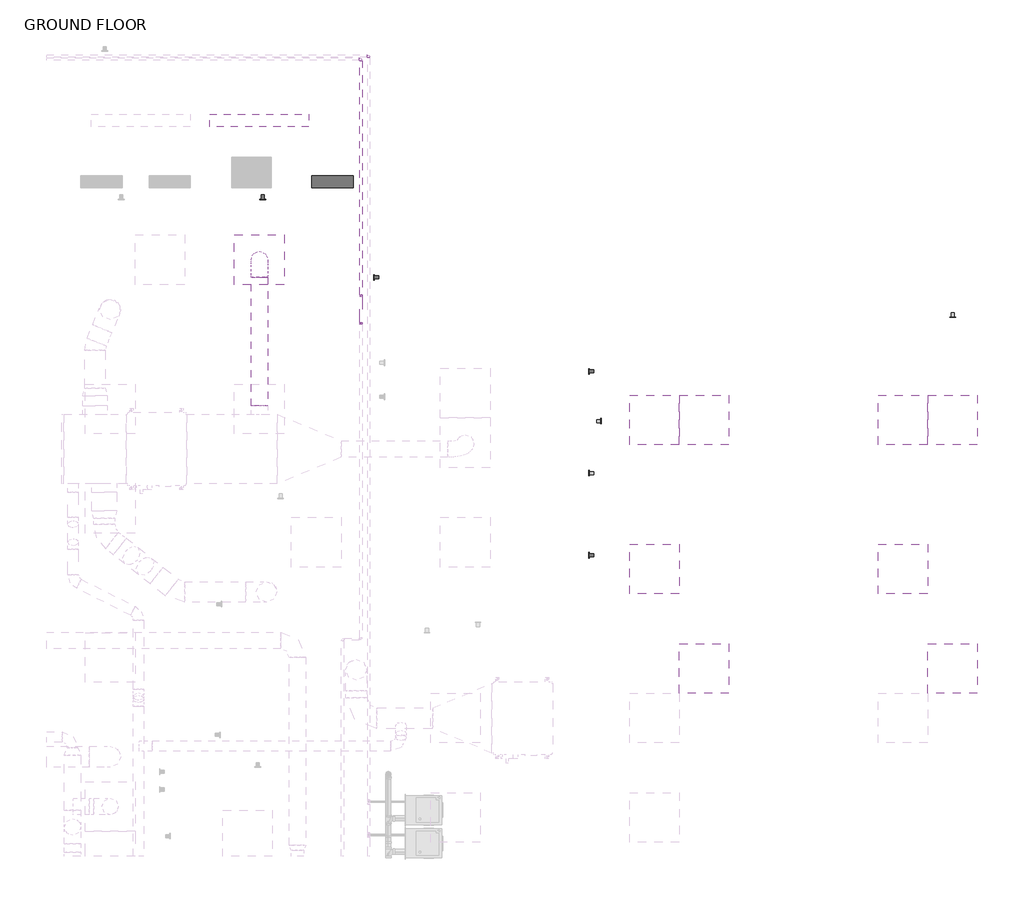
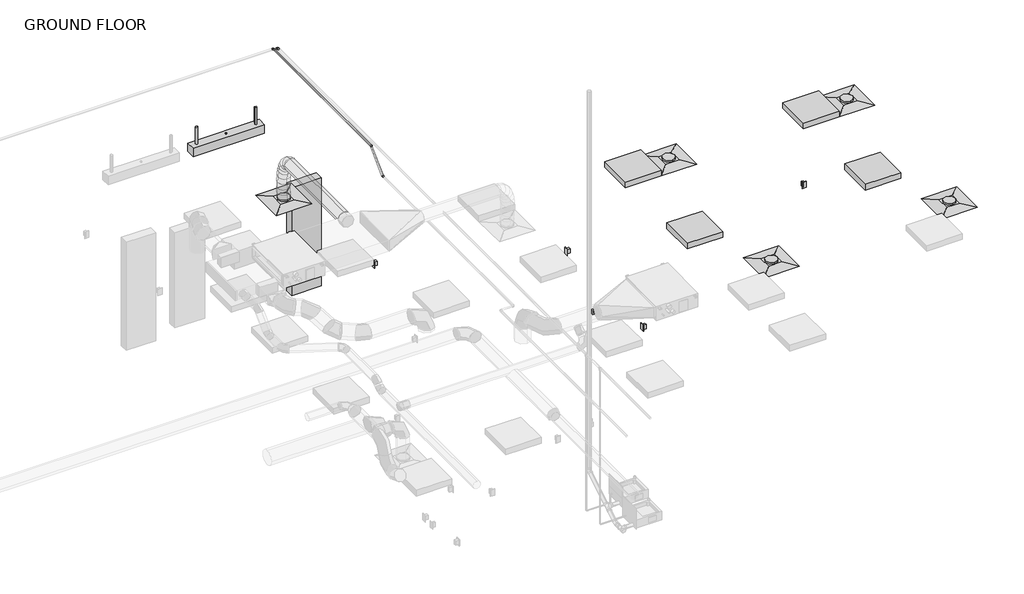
# One storey, part 20 of 20: 8 proxies, 5 air terminals, 5 light fixtures, 4 pipe fittings, 2 duct segments, 2 pipe segments.
"""IFC4 building model written with IfcOpenShell, lengths in millimetres."""

from ifc_helpers import new_model, si_unit, point, frame, frame_2d, origin, place, context, project, spatial, circle_curve, ellipse_curve, trimmed, segment, composite_curve, outline, extrude, transform, mapped, element, save
from ifc_brep_helpers import plane_surface, cylinder_surface, advanced_brep
from components import air_terminal_e9020785, duplex_receptacle_countertop_10251bba, lighting_and_appliance_panelboard_208v_mcb_surface_400_a_1492eeec, suspended_fluorescent_strip_non_hosted_strip_light_1x4_120v_4ea4ccb3, troffer_corner_insert_2x2_3lamp_e67c7f8f, elbow_generic_standard_1964ee4a, elbow_generic_standard_c06ac706

model = new_model("IFC4")

# Units and contexts
model_context = context("Model", 3, world=origin())
ifc_project = project(units=[si_unit("LENGTHUNIT", "METRE", prefix="MILLI")], contexts=[model_context])

# Site, building, storey
site = spatial("IfcSite", under=ifc_project)
building = spatial("IfcBuilding", under=site)
storey = spatial("IfcBuildingStorey", under=building, Name="GROUND FLOOR", Elevation=30480.0)

# Air terminals
placement = place(None, origin())
air_terminal_shape = air_terminal_e9020785(model_context)
element("IfcAirTerminal", 1, ObjectType="Supply Diffuser - Rectangular Face Round Neck - Hosted : 24\"x24\" Face 8\" Neck - Hosted", at=placement, inside=storey, context=model_context, shape_type="MappedRepresentation", body=[
    mapped(air_terminal_shape, transform((12040.5545393, 5163.5445005, 33223.2), x_axis=(0.0, -1.0, 0.0), y_axis=(-1.0, 0.0, 0.0), z_axis=(0.0, 0.0, -1.0))),
])
element("IfcAirTerminal", 2, ObjectType="Supply Diffuser - Rectangular Face Round Neck - Hosted : 24\"x24\" Face 8\" Neck - Hosted", at=placement, inside=storey, context=model_context, shape_type="MappedRepresentation", body=[
    mapped(air_terminal_shape, transform((17496.7920393, 3199.8070005, 33223.2), x_axis=(0.0, -1.0, 0.0), y_axis=(-1.0, 0.0, 0.0), z_axis=(0.0, 0.0, -1.0))),
])
element("IfcAirTerminal", 3, ObjectType="Supply Diffuser - Rectangular Face Round Neck - Hosted : 24\"x24\" Face 8\" Neck - Hosted", at=placement, inside=storey, context=model_context, shape_type="MappedRepresentation", body=[
    mapped(air_terminal_shape, transform((20544.7920393, 3199.8070005, 33223.2), x_axis=(0.0, -1.0, 0.0), y_axis=(-1.0, 0.0, 0.0), z_axis=(0.0, 0.0, -1.0))),
])
element("IfcAirTerminal", 4, ObjectType="Supply Diffuser - Rectangular Face Round Neck - Hosted : 24\"x24\" Face 8\" Neck - Hosted", at=placement, inside=storey, context=model_context, shape_type="MappedRepresentation", body=[
    mapped(air_terminal_shape, transform((20544.7920393, 151.8070005, 33223.2), x_axis=(0.0, -1.0, 0.0), y_axis=(-1.0, 0.0, 0.0), z_axis=(0.0, 0.0, -1.0))),
])
element("IfcAirTerminal", 5, ObjectType="Supply Diffuser - Rectangular Face Round Neck - Hosted : 24\"x24\" Face 8\" Neck - Hosted", at=placement, inside=storey, context=model_context, shape_type="MappedRepresentation", body=[
    mapped(air_terminal_shape, transform((17496.7920393, 151.8070005, 33223.2), x_axis=(0.0, -1.0, 0.0), y_axis=(-1.0, 0.0, 0.0), z_axis=(0.0, 0.0, -1.0))),
])

# Proxies
duplex_receptacle_countertop_shape = duplex_receptacle_countertop_10251bba(model_context)
element("IfcBuildingElementProxy", 6, Name="Duplex Receptacle : Countertop", ObjectType="Duplex Receptacle : Countertop", at=placement, inside=storey, context=model_context, shape_type="MappedRepresentation", body=[
    mapped(duplex_receptacle_countertop_shape, transform((12083.1234359, 5906.4945005, 31699.2), x_axis=(1.0, 0.0, 0.0), y_axis=(0.0, 0.0, 1.0), z_axis=(0.0, -1.0, 0.0))),
])
element("IfcBuildingElementProxy", 7, Name="Duplex Receptacle : Countertop", ObjectType="Duplex Receptacle : Countertop", at=placement, inside=storey, context=model_context, shape_type="MappedRepresentation", body=[
    mapped(duplex_receptacle_countertop_shape, transform((13450.2545393, 4948.4443724, 31699.2), x_axis=(0.0, -1.0, 0.0), y_axis=(0.0, 0.0, 1.0), z_axis=(-1.0, 0.0, 0.0))),
])
element("IfcBuildingElementProxy", 8, Name="Duplex Receptacle : Countertop", ObjectType="Duplex Receptacle : Countertop", at=placement, inside=storey, context=model_context, shape_type="MappedRepresentation", body=[
    mapped(duplex_receptacle_countertop_shape, transform((16088.906325, 1539.5608469, 31699.2), x_axis=(0.0, -1.0, 0.0), y_axis=(0.0, 0.0, 1.0), z_axis=(-1.0, 0.0, 0.0))),
])
element("IfcBuildingElementProxy", 9, Name="Duplex Receptacle : Countertop", ObjectType="Duplex Receptacle : Countertop", at=placement, inside=storey, context=model_context, shape_type="MappedRepresentation", body=[
    mapped(duplex_receptacle_countertop_shape, transform((16088.906325, 3795.2532913, 31699.2), x_axis=(0.0, -1.0, 0.0), y_axis=(0.0, 0.0, 1.0), z_axis=(-1.0, 0.0, 0.0))),
])
element("IfcBuildingElementProxy", 10, Name="Duplex Receptacle : Standard", ObjectType="Duplex Receptacle : Standard", at=placement, inside=storey, context=model_context, shape_type="MappedRepresentation", body=[
    mapped(duplex_receptacle_countertop_shape, transform((16088.906325, 2547.8133122, 30937.2), x_axis=(0.0, -1.0, 0.0), y_axis=(0.0, 0.0, 1.0), z_axis=(-1.0, 0.0, 0.0))),
])
element("IfcBuildingElementProxy", 11, Name="Duplex Receptacle : Standard", ObjectType="Duplex Receptacle : Standard", at=placement, inside=storey, context=model_context, shape_type="MappedRepresentation", body=[
    mapped(duplex_receptacle_countertop_shape, transform((16231.781325, 3185.3893172, 30937.2), x_axis=(0.0, 1.0, 0.0), y_axis=(0.0, 0.0, 1.0), z_axis=(1.0, 0.0, 0.0))),
])
element("IfcBuildingElementProxy", 12, Name="Duplex Receptacle : Standard", ObjectType="Duplex Receptacle : Standard", at=placement, inside=storey, context=model_context, shape_type="MappedRepresentation", body=[
    mapped(duplex_receptacle_countertop_shape, transform((20546.6842063, 4461.8695005, 30937.2), x_axis=(1.0, 0.0, 0.0), y_axis=(0.0, 0.0, 1.0), z_axis=(0.0, -1.0, 0.0))),
])
lighting_and_appliance_panelboard_208v_mcb_surface_400_a_shape = lighting_and_appliance_panelboard_208v_mcb_surface_400_a_1492eeec(model_context)
element("IfcBuildingElementProxy", 13, Name="Lighting and Appliance Panelboard - 208V MCB - Surface : 400 A", ObjectType="Lighting and Appliance Panelboard - 208V MCB - Surface : 400 A", at=placement, inside=storey, context=model_context, shape_type="MappedRepresentation", body=[
    mapped(lighting_and_appliance_panelboard_208v_mcb_surface_400_a_shape, transform((13034.193619, 6049.3695005, 31935.3056703), x_axis=(-1.0, 0.0, 0.0), y_axis=(0.0, 0.0, 1.0), z_axis=(0.0, 1.0, 0.0))),
])

# Duct segments
element("IfcDuctSegment", 14, ObjectType="Flex - Round", at=placement, inside=storey, context=model_context, shape_type="AdvancedBrep", body=[
    advanced_brep(
    [(11938.9545393, 4950.8195005, 33978.85), (12040.5545393, 4950.8195005, 33877.25), (12142.1545393, 4950.8195005, 33978.85), (12040.5545393, 4950.8195005, 34080.45), (11938.9545393, 4972.9798381, 33978.85), (12040.5545393, 4956.9529738, 33877.25), (12142.1545393, 4972.9798381, 33978.85), (12040.5545393, 4989.0067024, 34080.45), (11938.9545393, 5163.5445005, 33277.175), (12040.5545393, 5265.1408358, 33276.3120659), (12142.1545393, 5163.5445005, 33277.175), (12040.5545393, 5061.9481652, 33278.0379341), (11938.9545393, 5022.484368, 33962.8332928), (12040.5545393, 4972.7563767, 33872.1369633), (12142.1545393, 5022.484368, 33962.8332928), (12040.5545393, 5072.2123592, 34053.5296222), (11938.9545393, 5076.2316664, 33918.4601975), (12040.5545393, 4997.2093755, 33851.9488743), (12142.1545393, 5076.2316664, 33918.4601975), (12040.5545393, 5155.2539573, 33984.9715207), (11938.9545393, 5114.5944158, 33851.2462539), (12040.5545393, 5020.6511868, 33810.8773504), (12142.1545393, 5114.5944158, 33851.2462539), (12040.5545393, 5208.5376447, 33891.6151575), (11938.9545393, 5140.105636, 33766.7070017), (12040.5545393, 5040.8288551, 33744.0124582), (12142.1545393, 5140.105636, 33766.7070017), (12040.5545393, 5239.382417, 33789.4015452), (11938.9545393, 5155.2983472, 33670.3579805), (12040.5545393, 5054.2705013, 33658.768328), (12142.1545393, 5155.2983472, 33670.3579805), (12040.5545393, 5256.3261931, 33681.947633), (11938.9545393, 5162.7055692, 33567.7147301), (12040.5545393, 5061.1818121, 33562.9970113), (12142.1545393, 5162.7055692, 33567.7147301), (12040.5545393, 5264.2293264, 33572.4324488), (11938.9545393, 5164.8603222, 33464.29279), (12040.5545393, 5063.2542663, 33463.5251708), (12142.1545393, 5164.8603222, 33464.29279), (12040.5545393, 5266.466378, 33465.0604093), (11938.9545393, 5164.2956259, 33365.6077001), (12040.5545393, 5062.6980949, 33366.3298518), (12142.1545393, 5164.2956259, 33365.6077001), (12040.5545393, 5265.893157, 33364.8855485)],
    [
        (0, 1, circle_curve(frame((12040.5545393, 4950.8195005, 33978.85), z_axis=(0.0, -1.0, 0.0), x_axis=(-1.0, 0.0, 0.0)), 101.6)),
        (1, 2, circle_curve(frame((12040.5545393, 4950.8195005, 33978.85), z_axis=(0.0, -1.0, 0.0), x_axis=(-1.0, 0.0, 0.0)), 101.6)),
        (2, 3, circle_curve(frame((12040.5545393, 4950.8195005, 33978.85), z_axis=(0.0, -1.0, 0.0), x_axis=(-1.0, 0.0, 0.0)), 101.6)),
        (3, 0, circle_curve(frame((12040.5545393, 4950.8195005, 33978.85), z_axis=(0.0, -1.0, 0.0), x_axis=(-1.0, 0.0, 0.0)), 101.6)),
        (0, 4),
        (4, 5, ellipse_curve(frame((12040.5545393, 4972.9798381, 33978.85), z_axis=(0.0, -0.9877857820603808, 0.15581799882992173), x_axis=(0.0, -0.15581799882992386, -0.9877857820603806)), 102.8563094, 101.6)),
        (5, 1),
        (5, 6, ellipse_curve(frame((12040.5545393, 4972.9798381, 33978.85), z_axis=(0.0, -0.9877857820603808, 0.15581799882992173), x_axis=(0.0, -0.15581799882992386, -0.9877857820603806)), 102.8563094, 101.6)),
        (6, 2),
        (6, 7, ellipse_curve(frame((12040.5545393, 4972.9798381, 33978.85), z_axis=(0.0, -0.9877857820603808, 0.15581799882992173), x_axis=(0.0, -0.15581799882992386, -0.9877857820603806)), 102.8563094, 101.6)),
        (7, 3),
        (7, 4, ellipse_curve(frame((12040.5545393, 4972.9798381, 33978.85), z_axis=(0.0, -0.9877857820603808, 0.15581799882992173), x_axis=(0.0, -0.15581799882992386, -0.9877857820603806)), 102.8563094, 101.6)),
        (8, 9, circle_curve(frame((12040.5545393, 5163.5445005, 33277.175), z_axis=(0.0, -0.008493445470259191, -0.9999639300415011), x_axis=(-1.0, 0.0, 0.0)), 101.6)),
        (9, 10, circle_curve(frame((12040.5545393, 5163.5445005, 33277.175), z_axis=(0.0, -0.008493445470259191, -0.9999639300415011), x_axis=(-1.0, 0.0, 0.0)), 101.6)),
        (10, 11, circle_curve(frame((12040.5545393, 5163.5445005, 33277.175), z_axis=(0.0, -0.008493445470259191, -0.9999639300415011), x_axis=(-1.0, 0.0, 0.0)), 101.6)),
        (11, 8, circle_curve(frame((12040.5545393, 5163.5445005, 33277.175), z_axis=(0.0, -0.008493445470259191, -0.9999639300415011), x_axis=(-1.0, 0.0, 0.0)), 101.6)),
        (4, 12),
        (12, 13, ellipse_curve(frame((12040.5545393, 5022.484368, 33962.8332928), z_axis=(0.0, -0.8768478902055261, 0.48076790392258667), x_axis=(0.0, -0.48076790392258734, -0.8768478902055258)), 103.4345072, 101.6)),
        (13, 5),
        (13, 14, ellipse_curve(frame((12040.5545393, 5022.484368, 33962.8332928), z_axis=(0.0, -0.8768478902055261, 0.48076790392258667), x_axis=(0.0, -0.48076790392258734, -0.8768478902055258)), 103.4345072, 101.6)),
        (14, 6),
        (14, 15, ellipse_curve(frame((12040.5545393, 5022.484368, 33962.8332928), z_axis=(0.0, -0.8768478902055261, 0.48076790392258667), x_axis=(0.0, -0.48076790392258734, -0.8768478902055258)), 103.4345072, 101.6)),
        (15, 7),
        (15, 12, ellipse_curve(frame((12040.5545393, 5022.484368, 33962.8332928), z_axis=(0.0, -0.8768478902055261, 0.48076790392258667), x_axis=(0.0, -0.48076790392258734, -0.8768478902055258)), 103.4345072, 101.6)),
        (12, 16),
        (16, 17, ellipse_curve(frame((12040.5545393, 5076.2316664, 33918.4601975), z_axis=(0.0, -0.6439444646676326, 0.7650722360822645), x_axis=(0.0, -0.7650722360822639, -0.6439444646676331)), 103.2873592, 101.6)),
        (17, 13),
        (17, 18, ellipse_curve(frame((12040.5545393, 5076.2316664, 33918.4601975), z_axis=(0.0, -0.6439444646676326, 0.7650722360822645), x_axis=(0.0, -0.7650722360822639, -0.6439444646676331)), 103.2873592, 101.6)),
        (18, 14),
        (18, 19, ellipse_curve(frame((12040.5545393, 5076.2316664, 33918.4601975), z_axis=(0.0, -0.6439444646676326, 0.7650722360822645), x_axis=(0.0, -0.7650722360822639, -0.6439444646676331)), 103.2873592, 101.6)),
        (19, 15),
        (19, 16, ellipse_curve(frame((12040.5545393, 5076.2316664, 33918.4601975), z_axis=(0.0, -0.6439444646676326, 0.7650722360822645), x_axis=(0.0, -0.7650722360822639, -0.6439444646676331)), 103.2873592, 101.6)),
        (16, 20),
        (20, 21, ellipse_curve(frame((12040.5545393, 5114.5944158, 33851.2462539), z_axis=(0.0, -0.39480748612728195, 0.9187638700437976), x_axis=(0.0, -0.9187638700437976, -0.39480748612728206)), 102.24959, 101.6)),
        (21, 17),
        (21, 22, ellipse_curve(frame((12040.5545393, 5114.5944158, 33851.2462539), z_axis=(0.0, -0.39480748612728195, 0.9187638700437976), x_axis=(0.0, -0.9187638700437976, -0.39480748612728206)), 102.24959, 101.6)),
        (22, 18),
        (22, 23, ellipse_curve(frame((12040.5545393, 5114.5944158, 33851.2462539), z_axis=(0.0, -0.39480748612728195, 0.9187638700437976), x_axis=(0.0, -0.9187638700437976, -0.39480748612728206)), 102.24959, 101.6)),
        (23, 19),
        (23, 20, ellipse_curve(frame((12040.5545393, 5114.5944158, 33851.2462539), z_axis=(0.0, -0.39480748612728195, 0.9187638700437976), x_axis=(0.0, -0.9187638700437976, -0.39480748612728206)), 102.24959, 101.6)),
        (20, 24),
        (24, 25, ellipse_curve(frame((12040.5545393, 5140.105636, 33766.7070017), z_axis=(0.0, -0.22285007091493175, 0.9748527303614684), x_axis=(0.0, -0.9748527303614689, -0.22285007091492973)), 101.8377216, 101.6)),
        (25, 21),
        (25, 26, ellipse_curve(frame((12040.5545393, 5140.105636, 33766.7070017), z_axis=(0.0, -0.22285007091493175, 0.9748527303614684), x_axis=(0.0, -0.9748527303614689, -0.22285007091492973)), 101.8377216, 101.6)),
        (26, 22),
        (26, 27, ellipse_curve(frame((12040.5545393, 5140.105636, 33766.7070017), z_axis=(0.0, -0.22285007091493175, 0.9748527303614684), x_axis=(0.0, -0.9748527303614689, -0.22285007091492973)), 101.8377216, 101.6)),
        (27, 23),
        (27, 24, ellipse_curve(frame((12040.5545393, 5140.105636, 33766.7070017), z_axis=(0.0, -0.22285007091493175, 0.9748527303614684), x_axis=(0.0, -0.9748527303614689, -0.22285007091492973)), 101.8377216, 101.6)),
        (24, 28),
        (28, 29, ellipse_curve(frame((12040.5545393, 5155.2983472, 33670.3579805), z_axis=(0.0, -0.11396993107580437, 0.9934841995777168), x_axis=(0.0, -0.9934841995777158, -0.11396993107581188)), 101.6904406, 101.6)),
        (29, 25),
        (29, 30, ellipse_curve(frame((12040.5545393, 5155.2983472, 33670.3579805), z_axis=(0.0, -0.11396993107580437, 0.9934841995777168), x_axis=(0.0, -0.9934841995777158, -0.11396993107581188)), 101.6904406, 101.6)),
        (30, 26),
        (30, 31, ellipse_curve(frame((12040.5545393, 5155.2983472, 33670.3579805), z_axis=(0.0, -0.11396993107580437, 0.9934841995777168), x_axis=(0.0, -0.9934841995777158, -0.11396993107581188)), 101.6904406, 101.6)),
        (31, 27),
        (31, 28, ellipse_curve(frame((12040.5545393, 5155.2983472, 33670.3579805), z_axis=(0.0, -0.11396993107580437, 0.9934841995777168), x_axis=(0.0, -0.9934841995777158, -0.11396993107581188)), 101.6904406, 101.6)),
        (28, 32),
        (32, 33, ellipse_curve(frame((12040.5545393, 5162.7055692, 33567.7147301), z_axis=(0.0, -0.04641902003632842, 0.9989220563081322), x_axis=(0.0, -0.9989220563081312, -0.04641902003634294)), 101.6333122, 101.6)),
        (33, 29),
        (33, 34, ellipse_curve(frame((12040.5545393, 5162.7055692, 33567.7147301), z_axis=(0.0, -0.04641902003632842, 0.9989220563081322), x_axis=(0.0, -0.9989220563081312, -0.04641902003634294)), 101.6333122, 101.6)),
        (34, 30),
        (34, 35, ellipse_curve(frame((12040.5545393, 5162.7055692, 33567.7147301), z_axis=(0.0, -0.04641902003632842, 0.9989220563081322), x_axis=(0.0, -0.9989220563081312, -0.04641902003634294)), 101.6333122, 101.6)),
        (35, 31),
        (35, 32, ellipse_curve(frame((12040.5545393, 5162.7055692, 33567.7147301), z_axis=(0.0, -0.04641902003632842, 0.9989220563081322), x_axis=(0.0, -0.9989220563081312, -0.04641902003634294)), 101.6333122, 101.6)),
        (32, 36),
        (36, 37, ellipse_curve(frame((12040.5545393, 5164.8603222, 33464.29279), z_axis=(0.0, -0.007554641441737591, 0.9999714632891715), x_axis=(0.0, -0.9999714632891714, -0.007554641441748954)), 101.6089554, 101.6)),
        (37, 33),
        (37, 38, ellipse_curve(frame((12040.5545393, 5164.8603222, 33464.29279), z_axis=(0.0, -0.007554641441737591, 0.9999714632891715), x_axis=(0.0, -0.9999714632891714, -0.007554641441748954)), 101.6089554, 101.6)),
        (38, 34),
        (38, 39, ellipse_curve(frame((12040.5545393, 5164.8603222, 33464.29279), z_axis=(0.0, -0.007554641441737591, 0.9999714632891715), x_axis=(0.0, -0.9999714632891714, -0.007554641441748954)), 101.6089554, 101.6)),
        (39, 35),
        (39, 36, ellipse_curve(frame((12040.5545393, 5164.8603222, 33464.29279), z_axis=(0.0, -0.007554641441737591, 0.9999714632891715), x_axis=(0.0, -0.9999714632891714, -0.007554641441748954)), 101.6089554, 101.6)),
        (36, 40),
        (40, 41, ellipse_curve(frame((12040.5545393, 5164.2956259, 33365.6077001), z_axis=(0.0, 0.007107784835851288, 0.9999747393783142), x_axis=(8.836425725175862e-12, -0.9999747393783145, 0.007107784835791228)), 101.6000975, 101.6)),
        (41, 37),
        (41, 42, ellipse_curve(frame((12040.5545393, 5164.2956259, 33365.6077001), z_axis=(0.0, 0.007107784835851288, 0.9999747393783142), x_axis=(8.836425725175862e-12, -0.9999747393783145, 0.007107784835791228)), 101.6000975, 101.6)),
        (42, 38),
        (42, 43, ellipse_curve(frame((12040.5545393, 5164.2956259, 33365.6077001), z_axis=(0.0, 0.007107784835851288, 0.9999747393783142), x_axis=(8.836425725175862e-12, -0.9999747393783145, 0.007107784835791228)), 101.6000975, 101.6)),
        (43, 39),
        (43, 40, ellipse_curve(frame((12040.5545393, 5164.2956259, 33365.6077001), z_axis=(0.0, 0.007107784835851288, 0.9999747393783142), x_axis=(8.836425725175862e-12, -0.9999747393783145, 0.007107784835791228)), 101.6000975, 101.6)),
        (40, 8),
        (11, 41),
        (10, 42),
        (9, 43),
    ],
    [
        plane_surface(frame((11938.9545393, 4950.8195005, 33978.85), z_axis=(0.0, -1.0, 0.0), x_axis=(0.0, 0.0, 1.0))),
        cylinder_surface(frame((12040.5545393, 4950.8195005, 33978.85), z_axis=(0.0, -1.0, 0.0), x_axis=(-1.0, 0.0, 0.0)), 101.6),
        plane_surface(frame((12040.5545393, 5265.1408358, 33276.3120659), z_axis=(0.0, -0.008493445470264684, -0.9999639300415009), x_axis=(1.0, 0.0, 0.0))),
        cylinder_surface(frame((12040.5545393, 4972.9798381, 33978.85), z_axis=(0.0, -0.951441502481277, 0.30782960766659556), x_axis=(-1.0, 0.0, 0.0)), 101.6),
        cylinder_surface(frame((12040.5545393, 5022.484368, 33962.8332928), z_axis=(0.0, -0.7711508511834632, 0.6366524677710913), x_axis=(-1.0, 0.0, 0.0)), 101.6),
        cylinder_surface(frame((12040.5545393, 5076.2316664, 33918.4601975), z_axis=(0.0, -0.4956984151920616, 0.8684947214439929), x_axis=(-1.0, 0.0, 0.0)), 101.6),
        cylinder_surface(frame((12040.5545393, 5114.5944158, 33851.2462539), z_axis=(0.0, -0.2889001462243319, 0.9573592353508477), x_axis=(-1.0, 0.0, 0.0)), 101.6),
        cylinder_surface(frame((12040.5545393, 5140.105636, 33766.7070017), z_axis=(0.0, -0.15575959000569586, 0.9877949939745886), x_axis=(-1.0, 0.0, 0.0)), 101.6),
        cylinder_surface(frame((12040.5545393, 5155.2983472, 33670.3579805), z_axis=(0.0, -0.07197754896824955, 0.9974062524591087), x_axis=(-1.0, 0.0, 0.0)), 101.6),
        cylinder_surface(frame((12040.5545393, 5162.7055692, 33567.7147301), z_axis=(0.0, -0.020830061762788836, 0.9997830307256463), x_axis=(-1.0, 0.0, 0.0)), 101.6),
        cylinder_surface(frame((12040.5545393, 5164.8603222, 33464.29279), z_axis=(0.0, 0.005722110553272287, 0.9999836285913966), x_axis=(-1.0, 0.0, 0.0)), 101.6),
        cylinder_surface(frame((12040.5545393, 5164.2956259, 33365.6077001), z_axis=(0.0, 0.00849344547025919, 0.9999639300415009), x_axis=(-1.0, 0.0, 0.0)), 101.6),
    ],
    [
        (0, [[1, 2, 3, 4]]),
        (1, [[-1, 5, 6, 7]]),
        (1, [[-2, -7, 8, 9]]),
        (1, [[-3, -9, 10, 11]]),
        (1, [[-4, -11, 12, -5]]),
        (2, [[13, 14, 15, 16]]),
        (3, [[-6, 17, 18, 19]]),
        (3, [[-8, -19, 20, 21]]),
        (3, [[-10, -21, 22, 23]]),
        (3, [[-12, -23, 24, -17]]),
        (4, [[-18, 25, 26, 27]]),
        (4, [[-20, -27, 28, 29]]),
        (4, [[-22, -29, 30, 31]]),
        (4, [[-24, -31, 32, -25]]),
        (5, [[-26, 33, 34, 35]]),
        (5, [[-28, -35, 36, 37]]),
        (5, [[-30, -37, 38, 39]]),
        (5, [[-32, -39, 40, -33]]),
        (6, [[-34, 41, 42, 43]]),
        (6, [[-36, -43, 44, 45]]),
        (6, [[-38, -45, 46, 47]]),
        (6, [[-40, -47, 48, -41]]),
        (7, [[-42, 49, 50, 51]]),
        (7, [[-44, -51, 52, 53]]),
        (7, [[-46, -53, 54, 55]]),
        (7, [[-48, -55, 56, -49]]),
        (8, [[-50, 57, 58, 59]]),
        (8, [[-52, -59, 60, 61]]),
        (8, [[-54, -61, 62, 63]]),
        (8, [[-56, -63, 64, -57]]),
        (9, [[-58, 65, 66, 67]]),
        (9, [[-60, -67, 68, 69]]),
        (9, [[-62, -69, 70, 71]]),
        (9, [[-64, -71, 72, -65]]),
        (10, [[-66, 73, 74, 75]]),
        (10, [[-68, -75, 76, 77]]),
        (10, [[-70, -77, 78, 79]]),
        (10, [[-72, -79, 80, -73]]),
        (11, [[-74, 81, -16, 82]]),
        (11, [[-76, -82, -15, 83]]),
        (11, [[-78, -83, -14, 84]]),
        (11, [[-80, -84, -13, -81]]),
    ],
),
])
element("IfcDuctSegment", 15, ObjectType="Taps / Short Radius", at=placement, inside=storey, context=model_context, shape_type="SweptSolid", body=[
    extrude(outline(composite_curve([segment(trimmed(circle_curve(frame_2d((33978.85, 12040.5545393)), 101.6), [point((33978.85, 12142.1545393))], [point((34080.45, 12040.5545393))], False, "CARTESIAN"), True, "CONTINUOUS"), segment(trimmed(circle_curve(frame_2d((33978.85, 12040.5545393)), 101.6), [point((34080.45, 12040.5545393))], [point((33978.85, 11938.9545393))], False, "CARTESIAN"), True, "CONTINUOUS"), segment(trimmed(circle_curve(frame_2d((33978.85, 12040.5545393)), 101.6), [point((33978.85, 11938.9545393))], [point((33877.25, 12040.5545393))], False, "CARTESIAN"), True, "CONTINUOUS"), segment(trimmed(circle_curve(frame_2d((33978.85, 12040.5545393)), 101.6), [point((33877.25, 12040.5545393))], [point((33978.85, 12142.1545393))], False, "CARTESIAN"), True, "CONTINUOUS")], self_intersect=False)), frame((0.0, 3371.327897, 0.0), z_axis=(0.0, 1.0, 0.0), x_axis=(0.0, 0.0, 1.0)), (0.0, 0.0, 1.0), 1579.4916035),
])

# Light fixtures
suspended_fluorescent_strip_non_hosted_strip_light_1x4_120v_shape = suspended_fluorescent_strip_non_hosted_strip_light_1x4_120v_4ea4ccb3(model_context)
element("IfcLightFixture", 16, ObjectType="Suspended Fluorescent Strip - Non-Hosted : Strip Light 1x4 - 120V Normal", at=placement, inside=storey, context=model_context, shape_type="MappedRepresentation", body=[
    mapped(suspended_fluorescent_strip_non_hosted_strip_light_1x4_120v_shape, transform((12040.5545393, 6874.6802316, 33223.2), x_axis=(1.0, 0.0, 0.0), y_axis=(0.0, 1.0, 0.0), z_axis=(0.0, 0.0, 1.0))),
])
troffer_corner_insert_2x2_3lamp_shape = troffer_corner_insert_2x2_3lamp_e67c7f8f(model_context)
element("IfcLightFixture", 17, ObjectType="Troffer Corner Insert : 2x2 3Lamp", at=placement, inside=storey, context=model_context, shape_type="MappedRepresentation", body=[
    mapped(troffer_corner_insert_2x2_3lamp_shape, transform((16887.1920393, 3199.8070005, 30784.8), x_axis=(1.0, 0.0, 0.0), y_axis=(0.0, 1.0, 0.0), z_axis=(0.0, 0.0, 1.0))),
])
element("IfcLightFixture", 18, ObjectType="Troffer Corner Insert : 2x2 3Lamp", at=placement, inside=storey, context=model_context, shape_type="MappedRepresentation", body=[
    mapped(troffer_corner_insert_2x2_3lamp_shape, transform((19935.1920393, 3199.8070005, 30784.8), x_axis=(1.0, 0.0, 0.0), y_axis=(0.0, 1.0, 0.0), z_axis=(0.0, 0.0, 1.0))),
])
element("IfcLightFixture", 19, ObjectType="Troffer Corner Insert : 2x2 3Lamp", at=placement, inside=storey, context=model_context, shape_type="MappedRepresentation", body=[
    mapped(troffer_corner_insert_2x2_3lamp_shape, transform((16887.1920393, 1371.0070005, 30784.8), x_axis=(1.0, 0.0, 0.0), y_axis=(0.0, 1.0, 0.0), z_axis=(0.0, 0.0, 1.0))),
])
element("IfcLightFixture", 20, ObjectType="Troffer Corner Insert : 2x2 3Lamp", at=placement, inside=storey, context=model_context, shape_type="MappedRepresentation", body=[
    mapped(troffer_corner_insert_2x2_3lamp_shape, transform((19935.1920393, 1371.0070005, 30784.8), x_axis=(1.0, 0.0, 0.0), y_axis=(0.0, 1.0, 0.0), z_axis=(0.0, 0.0, 1.0))),
])

# Pipe fittings
elbow_generic_standard_shape = elbow_generic_standard_1964ee4a(model_context)
element("IfcPipeFitting", 21, ObjectType="Elbow - Generic : Standard", at=placement, inside=storey, context=model_context, shape_type="MappedRepresentation", body=[
    mapped(elbow_generic_standard_shape, transform((13289.5512041, 4726.2310161, 34023.2999997), x_axis=(0.0, -1.0, 0.0), y_axis=(0.0, 0.0, -1.0), z_axis=(1.0, 0.0, 0.0))),
])
element("IfcPipeFitting", 22, ObjectType="Elbow - Generic : Standard", at=placement, inside=storey, context=model_context, shape_type="MappedRepresentation", body=[
    mapped(elbow_generic_standard_shape, transform((13289.5512041, 4383.3310166, 33680.4), x_axis=(0.0, -0.7071067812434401, -0.7071067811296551), y_axis=(0.0, -0.7071067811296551, 0.7071067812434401), z_axis=(-1.0, 0.0, 0.0))),
])
elbow_generic_standard_2_shape = elbow_generic_standard_c06ac706(model_context)
element("IfcPipeFitting", 23, ObjectType="Elbow - Generic : Standard", at=placement, inside=storey, context=model_context, shape_type="MappedRepresentation", body=[
    mapped(elbow_generic_standard_2_shape, transform((13383.5569177, 7665.0593518, 33978.2831664), x_axis=(0.0, 1.0, 0.0), y_axis=(-1.0, 0.0, 0.0), z_axis=(0.0, 0.0, 1.0))),
])
element("IfcPipeFitting", 24, ObjectType="Elbow - Generic : Standard", at=placement, inside=storey, context=model_context, shape_type="MappedRepresentation", body=[
    mapped(elbow_generic_standard_2_shape, transform((13289.5512041, 7628.1810166, 34023.2999997), x_axis=(0.0, 1.0, 0.0), y_axis=(-1.0, 0.0, 0.0), z_axis=(0.0, 0.0, 1.0))),
])

# Pipe segments
element("IfcPipeSegment", 25, ObjectType="Copper Tubing", at=placement, inside=storey, context=model_context, shape_type="SweptSolid", body=[
    extrude(outline(composite_curve([segment(trimmed(circle_curve(frame_2d((34023.2999997, 13289.5512041)), 14.2875), [point((34023.2999997, 13275.2637041))], [point((34009.0124997, 13289.5512041))], False, "CARTESIAN"), True, "CONTINUOUS"), segment(trimmed(circle_curve(frame_2d((34023.2999997, 13289.5512041)), 14.2875), [point((34009.0124997, 13289.5512041))], [point((34023.2999997, 13303.8387041))], False, "CARTESIAN"), True, "CONTINUOUS"), segment(trimmed(circle_curve(frame_2d((34023.2999997, 13289.5512041)), 14.2875), [point((34023.2999997, 13303.8387041))], [point((34037.5874997, 13289.5512041))], False, "CARTESIAN"), True, "CONTINUOUS"), segment(trimmed(circle_curve(frame_2d((34023.2999997, 13289.5512041)), 14.2875), [point((34037.5874997, 13289.5512041))], [point((34023.2999997, 13275.2637041))], False, "CARTESIAN"), True, "CONTINUOUS")], self_intersect=False)), frame((0.0, 4734.7793485, 0.0), z_axis=(0.0, 1.0, 0.0), x_axis=(0.0, 0.0, 1.0)), (0.0, 0.0, 1.0), 2872.7641681),
])
element("IfcPipeSegment", 26, ObjectType="Copper Tubing", at=placement, inside=storey, context=model_context, shape_type="SweptSolid", body=[
    extrude(outline(composite_curve([segment(trimmed(circle_curve(frame_2d((0.0, -14.2875)), 14.2875), [point((-14.2875, -14.2875))], [point((0.0, 0.0))], False, "CARTESIAN"), True, "CONTINUOUS"), segment(trimmed(circle_curve(frame_2d((0.0, -14.2875)), 14.2875), [point((0.0, 0.0))], [point((14.2875, -14.2875))], False, "CARTESIAN"), True, "CONTINUOUS"), segment(trimmed(circle_curve(frame_2d((0.0, -14.2875)), 14.2875), [point((14.2875, -14.2875))], [point((0.0, -28.575))], False, "CARTESIAN"), True, "CONTINUOUS"), segment(trimmed(circle_curve(frame_2d((0.0, -14.2875)), 14.2875), [point((0.0, -28.575))], [point((-14.2875, -14.2875))], False, "CARTESIAN"), True, "CONTINUOUS")], self_intersect=False)), frame((13289.5512041, 4399.4783886, 33676.3417957), z_axis=(0.0, 0.707106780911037, 0.7071067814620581), x_axis=(1.0, 0.0, 0.0)), (0.0, 0.0, 1.0), 467.8371652),
])

save(model, "model.ifc")
